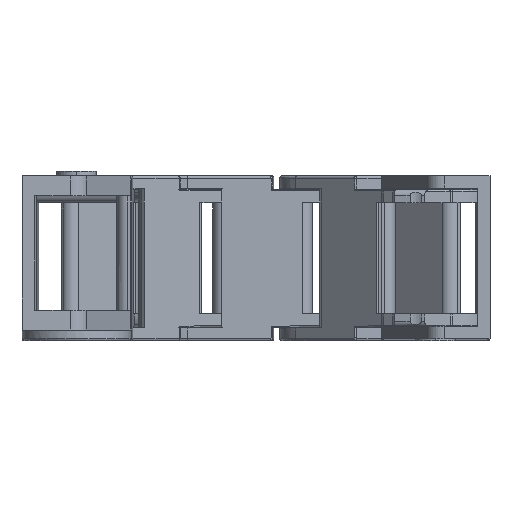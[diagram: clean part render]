
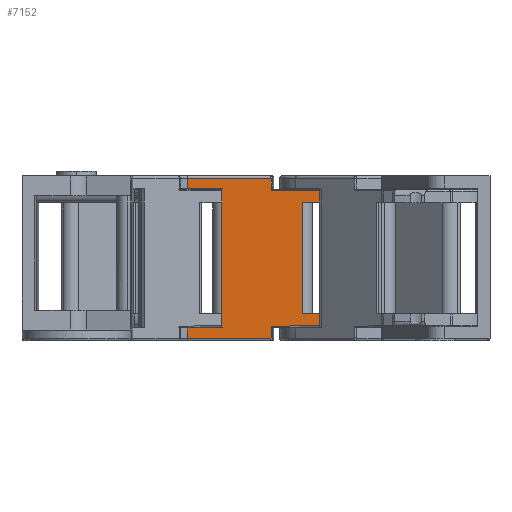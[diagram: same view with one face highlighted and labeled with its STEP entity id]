
A CAD part, left-side view. The second image highlights one B-rep face of the part: STEP entity #7152.
In plain terms, the highlighted planar face has unit normal (-1, 0.011, 0) as drawn and (0, 1, 0) by its records, which use the part's own axes.
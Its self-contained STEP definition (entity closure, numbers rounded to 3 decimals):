
#467=DIRECTION('',(0.,0.,-1.));
#468=VECTOR('',#467,1.496);
#469=CARTESIAN_POINT('',(-0.4,7.6,11.2));
#470=LINE('',#469,#468);
#896=DIRECTION('',(-1.,0.,0.));
#897=VECTOR('',#896,4.432);
#898=CARTESIAN_POINT('',(-16.4,7.6,7.75));
#899=LINE('',#898,#897);
#1187=CARTESIAN_POINT('',(-12.,7.6,11.2));
#1188=CARTESIAN_POINT('',(-12.049,7.6,11.2));
#1189=CARTESIAN_POINT('',(-12.1,7.6,11.149));
#1190=CARTESIAN_POINT('',(-12.1,7.6,11.1));
#1195=DIRECTION('',(-1.,0.,-0.005));
#1196=VECTOR('',#1195,8.732);
#1197=CARTESIAN_POINT('',(-12.1,7.6,9.451));
#1198=LINE('',#1197,#1196);
#1202=DIRECTION('',(-1.,0.,0.));
#1203=VECTOR('',#1202,4.432);
#1204=CARTESIAN_POINT('',(-16.4,7.6,-7.75));
#1205=LINE('',#1204,#1203);
#1209=DIRECTION('',(1.,0.,-0.005));
#1210=VECTOR('',#1209,8.732);
#1211=CARTESIAN_POINT('',(-20.832,7.6,
-9.405));
#1212=LINE('',#1211,#1210);
#1216=CARTESIAN_POINT('',(-12.1,7.6,-11.1));
#1217=CARTESIAN_POINT('',(-12.1,7.6,-11.149));
#1218=CARTESIAN_POINT('',(-12.049,7.6,-11.2));
#1219=CARTESIAN_POINT('',(-12.,7.6,-11.2));
#1224=DIRECTION('',(-1.,0.,0.005));
#1225=VECTOR('',#1224,4.8);
#1226=CARTESIAN_POINT('',(-0.4,7.6,-9.704));
#1227=LINE('',#1226,#1225);
#1231=DIRECTION('',(0.,0.,1.));
#1232=VECTOR('',#1231,19.359);
#1233=CARTESIAN_POINT('',(-5.2,7.6,-9.679));
#1234=LINE('',#1233,#1232);
#1238=DIRECTION('',(1.,0.,0.005));
#1239=VECTOR('',#1238,4.8);
#1240=CARTESIAN_POINT('',(-5.2,7.6,9.679));
#1241=LINE('',#1240,#1239);
#1245=DIRECTION('',(1.,0.,0.));
#1246=VECTOR('',#1245,11.6);
#1247=CARTESIAN_POINT('',(-12.,7.6,11.2));
#1248=LINE('',#1247,#1246);
#1343=DIRECTION('',(0.,0.,1.));
#1344=VECTOR('',#1343,1.649);
#1345=CARTESIAN_POINT('',(-12.1,7.6,9.451));
#1346=LINE('',#1345,#1344);
#1373=DIRECTION('',(0.,0.,1.));
#1374=VECTOR('',#1373,1.655);
#1375=CARTESIAN_POINT('',(-20.832,7.6,7.75));
#1376=LINE('',#1375,#1374);
#1394=DIRECTION('',(0.,0.,1.));
#1395=VECTOR('',#1394,15.5);
#1396=CARTESIAN_POINT('',(-16.4,7.6,-7.75));
#1397=LINE('',#1396,#1395);
#1675=DIRECTION('',(0.,0.,-1.));
#1676=VECTOR('',#1675,1.496);
#1677=CARTESIAN_POINT('',(-0.4,7.6,-9.704));
#1678=LINE('',#1677,#1676);
#2243=CARTESIAN_POINT('',(-12.,7.6,-11.2));
#2255=DIRECTION('',(0.,0.,1.));
#2256=VECTOR('',#2255,1.649);
#2257=CARTESIAN_POINT('',(-12.1,7.6,-11.1));
#2258=LINE('',#2257,#2256);
#2495=DIRECTION('',(0.,0.,1.));
#2496=VECTOR('',#2495,1.655);
#2497=CARTESIAN_POINT('',(-20.832,7.6,
-9.405));
#2498=LINE('',#2497,#2496);
#3373=DIRECTION('',(-1.,0.,0.));
#3374=VECTOR('',#3373,11.6);
#3375=CARTESIAN_POINT('',(-0.4,7.6,-11.2));
#3376=LINE('',#3375,#3374);
#5453=CARTESIAN_POINT('',(-5.2,7.6,9.679));
#5455=VERTEX_POINT('',#5453);
#5472=CARTESIAN_POINT('',(-0.4,7.6,9.704));
#5473=VERTEX_POINT('',#5472);
#5748=VERTEX_POINT('',#2243);
#5749=VERTEX_POINT('',#1216);
#5752=CARTESIAN_POINT('',(-12.,7.6,11.2));
#5753=CARTESIAN_POINT('',(-0.4,7.6,11.2));
#5754=VERTEX_POINT('',#5752);
#5755=VERTEX_POINT('',#5753);
#5756=VERTEX_POINT('',#1190);
#5757=CARTESIAN_POINT('',(-12.1,7.6,9.451));
#5758=VERTEX_POINT('',#5757);
#5759=CARTESIAN_POINT('',(-20.832,7.6,9.405));
#5760=VERTEX_POINT('',#5759);
#5761=CARTESIAN_POINT('',(-20.832,7.6,7.75));
#5762=VERTEX_POINT('',#5761);
#5763=CARTESIAN_POINT('',(-16.4,7.6,7.75));
#5764=VERTEX_POINT('',#5763);
#5765=CARTESIAN_POINT('',(-16.4,7.6,-7.75));
#5766=VERTEX_POINT('',#5765);
#5767=CARTESIAN_POINT('',(-20.832,7.6,-7.75));
#5768=VERTEX_POINT('',#5767);
#5769=CARTESIAN_POINT('',(-20.832,7.6,
-9.405));
#5770=VERTEX_POINT('',#5769);
#5771=CARTESIAN_POINT('',(-12.1,7.6,-9.451));
#5772=VERTEX_POINT('',#5771);
#5773=CARTESIAN_POINT('',(-0.4,7.6,-11.2));
#5774=VERTEX_POINT('',#5773);
#5775=CARTESIAN_POINT('',(-0.4,7.6,-9.704));
#5776=VERTEX_POINT('',#5775);
#5777=CARTESIAN_POINT('',(-5.2,7.6,-9.679));
#5778=VERTEX_POINT('',#5777);
#7113=CARTESIAN_POINT('',(7.2,7.6,-11.5));
#7114=DIRECTION('',(0.,1.,0.));
#7115=DIRECTION('',(-1.,0.,0.));
#7116=AXIS2_PLACEMENT_3D('',#7113,#7114,#7115);
#7117=PLANE('',#7116);
#7119=ORIENTED_EDGE('',*,*,#7118,.F.);
#7121=ORIENTED_EDGE('',*,*,#7120,.T.);
#7123=ORIENTED_EDGE('',*,*,#7122,.F.);
#7124=ORIENTED_EDGE('',*,*,#7099,.T.);
#7126=ORIENTED_EDGE('',*,*,#7125,.F.);
#7127=ORIENTED_EDGE('',*,*,#6771,.F.);
#7129=ORIENTED_EDGE('',*,*,#7128,.F.);
#7131=ORIENTED_EDGE('',*,*,#7130,.T.);
#7133=ORIENTED_EDGE('',*,*,#7132,.F.);
#7135=ORIENTED_EDGE('',*,*,#7134,.T.);
#7137=ORIENTED_EDGE('',*,*,#7136,.F.);
#7139=ORIENTED_EDGE('',*,*,#7138,.T.);
#7141=ORIENTED_EDGE('',*,*,#7140,.F.);
#7143=ORIENTED_EDGE('',*,*,#7142,.F.);
#7145=ORIENTED_EDGE('',*,*,#7144,.T.);
#7147=ORIENTED_EDGE('',*,*,#7146,.T.);
#7148=ORIENTED_EDGE('',*,*,#6256,.T.);
#7149=ORIENTED_EDGE('',*,*,#6305,.F.);
#7150=EDGE_LOOP('',(#7119,#7121,#7123,#7124,#7126,#7127,#7129,#7131,#7133,#7135,
#7137,#7139,#7141,#7143,#7145,#7147,#7148,#7149));
#7151=FACE_OUTER_BOUND('',#7150,.F.);
#7152=ADVANCED_FACE('',(#7151),#7117,.T.);
#1191=B_SPLINE_CURVE_WITH_KNOTS('',3,(#1187,#1188,#1189,#1190),.UNSPECIFIED.,
.F.,.F.,(4,4),(0.,1.),.UNSPECIFIED.);
#1220=B_SPLINE_CURVE_WITH_KNOTS('',3,(#1216,#1217,#1218,#1219),.UNSPECIFIED.,
.F.,.F.,(4,4),(0.,1.),.UNSPECIFIED.);
#6256=EDGE_CURVE('',#5455,#5473,#1241,.T.);
#6305=EDGE_CURVE('',#5755,#5473,#470,.T.);
#6771=EDGE_CURVE('',#5764,#5762,#899,.T.);
#7099=EDGE_CURVE('',#5758,#5760,#1198,.T.);
#7118=EDGE_CURVE('',#5754,#5755,#1248,.T.);
#7120=EDGE_CURVE('',#5754,#5756,#1191,.T.);
#7122=EDGE_CURVE('',#5758,#5756,#1346,.T.);
#7125=EDGE_CURVE('',#5762,#5760,#1376,.T.);
#7128=EDGE_CURVE('',#5766,#5764,#1397,.T.);
#7130=EDGE_CURVE('',#5766,#5768,#1205,.T.);
#7132=EDGE_CURVE('',#5770,#5768,#2498,.T.);
#7134=EDGE_CURVE('',#5770,#5772,#1212,.T.);
#7136=EDGE_CURVE('',#5749,#5772,#2258,.T.);
#7138=EDGE_CURVE('',#5749,#5748,#1220,.T.);
#7140=EDGE_CURVE('',#5774,#5748,#3376,.T.);
#7142=EDGE_CURVE('',#5776,#5774,#1678,.T.);
#7144=EDGE_CURVE('',#5776,#5778,#1227,.T.);
#7146=EDGE_CURVE('',#5778,#5455,#1234,.T.);
